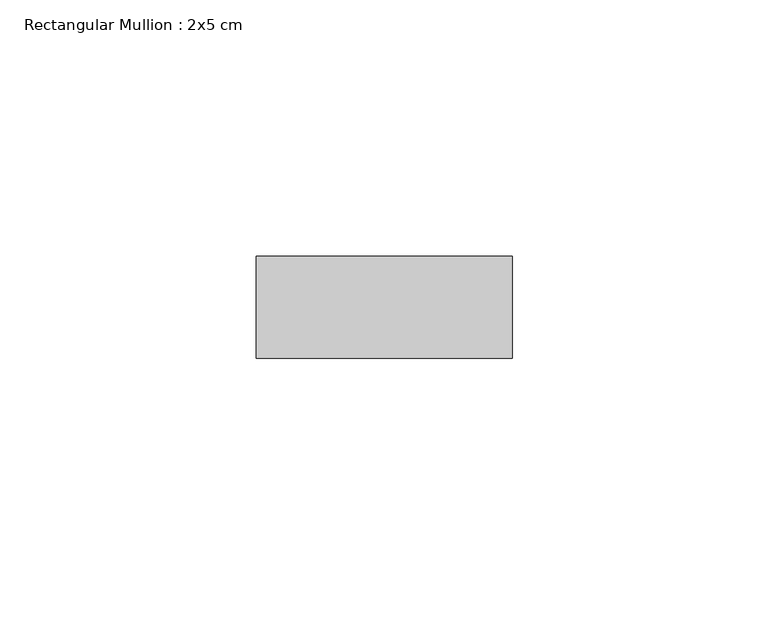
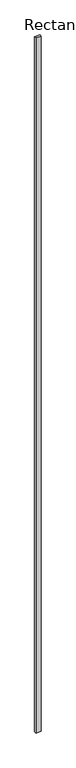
"""IFC4 building model written with IfcOpenShell, lengths in millimetres: member geometry, Rectangular Mullion : 2x5 cm."""

from ifc_helpers import new_model, si_unit, frame, origin, place, context, project, spatial, polyline, outline, extrude, source, transform, mapped, element, save


def rectangular_mullion_2x5_cm_437f2c4f(model_context):
    return source(origin(), model_context, "Body", "SweptSolid", [
        extrude(outline(polyline([(50.0, 20.0), (50.0, 0.0), (0.0, 0.0), (0.0, 20.0), (50.0, 20.0)])), frame((0.0, 0.0, -7205.790805), z_axis=(0.0, 0.0, 1.0), x_axis=(1.0, 0.0, 0.0)), (0.0, 0.0, 1.0), 7205.790805),
    ])


if __name__ == "__main__":
    model = new_model("IFC4")
    model_context = context("Model", 3, world=origin())
    ifc_project = project(units=[si_unit("LENGTHUNIT", "METRE", prefix="MILLI")], contexts=[model_context])
    site = spatial("IfcSite", under=ifc_project)
    building = spatial("IfcBuilding", under=site)
    placement = place(None, origin())
    rectangular_mullion_2x5_cm_shape = rectangular_mullion_2x5_cm_437f2c4f(model_context)
    element("IfcMember", 1, ObjectType="Rectangular Mullion : 2x5 cm", at=placement, inside=building, context=model_context, shape_type="MappedRepresentation", body=[
        mapped(rectangular_mullion_2x5_cm_shape, transform((0.0, 0.0, 0.0), x_axis=(1.0, 0.0, 0.0), y_axis=(0.0, 1.0, 0.0), z_axis=(0.0, 0.0, 1.0))),
    ])
    save(model, "model.ifc")
